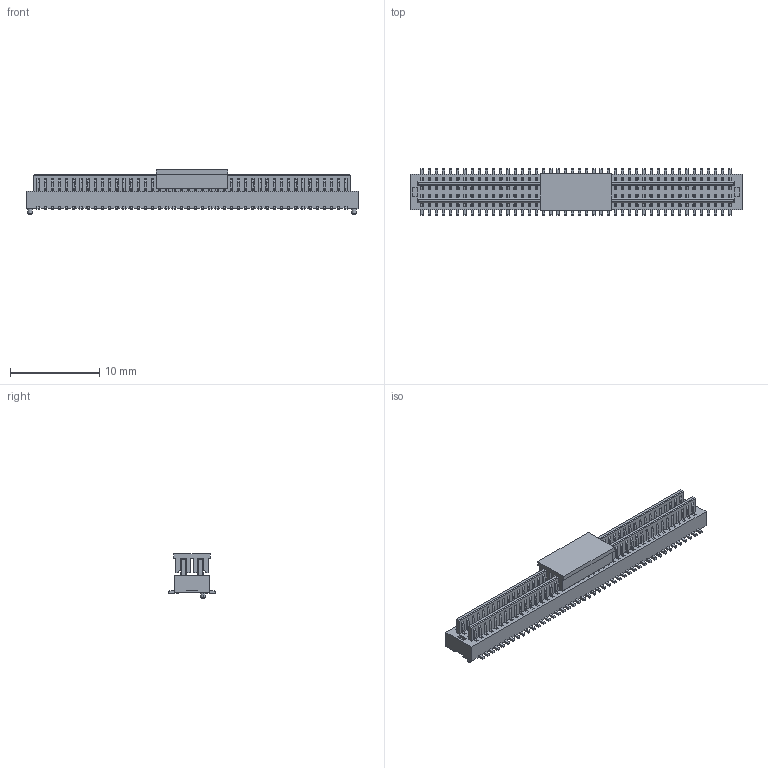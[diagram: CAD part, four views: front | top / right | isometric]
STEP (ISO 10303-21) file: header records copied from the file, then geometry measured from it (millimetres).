
FILE_DESCRIPTION (( 'STEP AP203' ), '1' );
FILE_NAME ('HC-PBB08-2-88-M-H2.0-G1-R-P-04(BTB0.8 双槽 公座 立贴 带柱 编带+盖)-HCTL.STEP', '2025-12-11T03:47:22', ( '' ), ( '' ), 'SwSTEP 2.0', 'SolidWorks 2025', '' );
FILE_SCHEMA (( 'CONFIG_CONTROL_DESIGN' ));
Length unit declared in the file: millimetre
Products named in the file (1): HC-PBB08-2-88-M-H2.0-G1-R-P-04(BTB0.8 双槽 公座 立贴 带柱 编带+盖)-HCTL
Bounding box: 37.1 x 5.2 x 4.95 mm (x, y, z)
Volume: 386.8 mm3; surface area: 2222.4 mm2
Topology: 2 solids, 2 shells, 5096 faces, 16390 edges, 10688 vertices
Faces by surface type: plane 3328, cylinder 1764, torus 4
Entity records: 181037 total; most frequent: CARTESIAN_POINT 33231, ORIENTED_EDGE 32780, DIRECTION 29768, EDGE_CURVE 16390, VECTOR 12502, LINE 12502, VERTEX_POINT 10688, AXIS2_PLACEMENT_3D 8633
